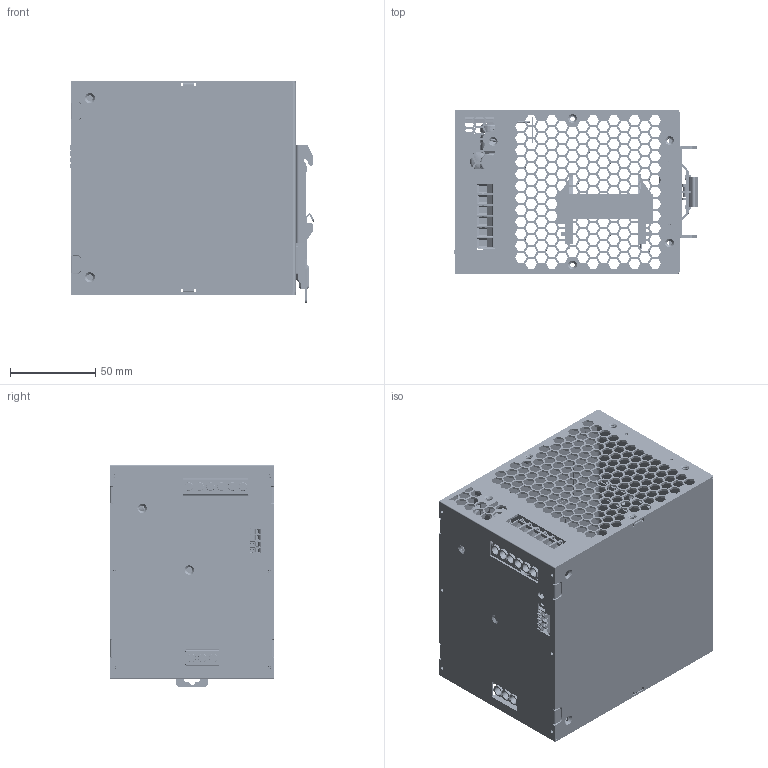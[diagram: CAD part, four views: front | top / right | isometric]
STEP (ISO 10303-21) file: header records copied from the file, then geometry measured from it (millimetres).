
FILE_DESCRIPTION(('Creo Elements/Direct Modeling STEP Export'),'2;1');
FILE_NAME('XDR-960.stp','2025-12-17T11:05:43',(''),(''),'Creo Elements/Direct Modeling STEP processor for AP214 (Solid Model)','Creo Elements/Direct Modeling 19.0G 27-Nov-2017 (C) Parametric Technology GmbH','');
FILE_SCHEMA(('AUTOMOTIVE_DESIGN { 1 0 10303 214 1 1 1 1 }'));
Length unit declared in the file: millimetre
Products named in the file (245): 挂钩-2; BOBBIN.1; EFD52; EFD52.1; NSDR-960变压器.stp; 1GG2MHS039A_2.PRT; PIN2-2; PIN2-2.1; 散热片4; 大散热片; 散热片3.1; C板散热片; B板散热片; 散热片; 散热片装配; FT-63EP_1-704230.PRT; MPX312-750804-20180713.step.1; 1FF1DH2I-2X7.stp; MPX312-750804-20180713.step; 装配1; DG212R-THR-3.5-05P-1Y-1000A_Z(H).1; DG212R-THR-3.5-05P-1Y-1000A_Z(H).1.1; 端子台FG; VR.PRT; 电位器.stp; 麦拉2; 零件1.2; 陶瓷片; 零件2; 零件1; 麦拉1; 陶瓷片2; 端子; 上盖-20241127; SDR-120_-___.stp; NSDR-960机壳.stp; 下盖.1.1; 下盖.1.2; 下盖; XDR-960CASE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
Assembly tree (309 placements, depth 8):
  XDR-960E
    XDR-960ABCD-A.step
      PCB.ASM
        D103.ASM
          1085525024.ASM
            EXTRUDED-697453.PRT
          1085524864.ASM
            EXTRUDED-697081.PRT
          1085524704.ASM  x2
            EXTRUDED-339444.PRT
        U104.ASM
          2CUX-DBV-5_SOT23-5_.PRT
        R137.ASM
          789471048.ASM
            789471048_4.PRT
            789471048_3.PRT
            789471048_2.PRT
            789471048_1.PRT
        R128.ASM
          789483664.ASM
            789483664_4.PRT
            789483664_3.PRT
            789483664_2.PRT
            789483664_1.PRT
        R127.ASM
          789471048.ASM
            789471048_4.PRT
            789471048_3.PRT
            789471048_2.PRT
            789471048_1.PRT
        R126.ASM
          789471200.ASM
            789471200_4.PRT
            789471200_3.PRT
            789471200_2.PRT
            789471200_1.PRT
        R125.ASM
          789483512.ASM
            789483512_4.PRT
            789483512_3.PRT
            789483512_2.PRT
            789483512_1.PRT
        R124.ASM
          789471200.ASM
            789471200_4.PRT
            789471200_3.PRT
            789471200_2.PRT
            789471200_1.PRT
        Q122.ASM
          2CDX-SOT23.PRT
        Q113.ASM
          2CDX-SOT23.PRT
        D113.ASM
          2CDX-SOD323.PRT
        D100.ASM
          2CDX-SOD323.PRT
        C124.ASM
          789484728.PRT
        Q121.ASM
          2CQ1-SOT89.PRT
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Bounding box: 143.61 x 96 x 130.2 mm (x, y, z)
Volume: 242065.3 mm3; surface area: 334425.1 mm2
Topology: 187 solids, 231 shells, 13882 faces, 38989 edges, 25632 vertices
Faces by surface type: plane 10615, cylinder 1753, extrusion 778, sphere 239, torus 214, cone 174, bspline 104, revolution 5
Entity records: 440199 total; most frequent: CARTESIAN_POINT 92003, ORIENTED_EDGE 65196, DIRECTION 55493, EDGE_CURVE 32646, VECTOR 27844, LINE 27380, VERTEX_POINT 21593, AXIS2_PLACEMENT_3D 13822
